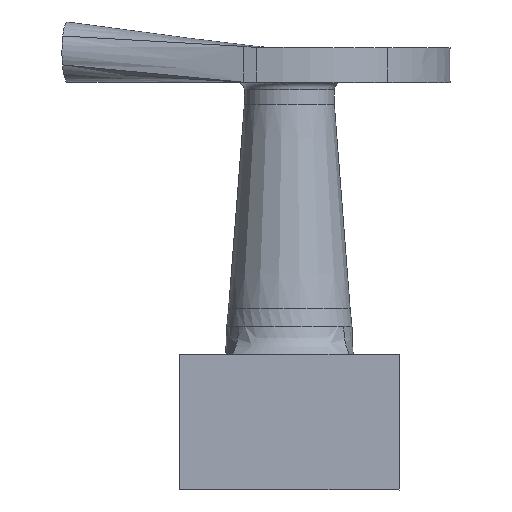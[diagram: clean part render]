
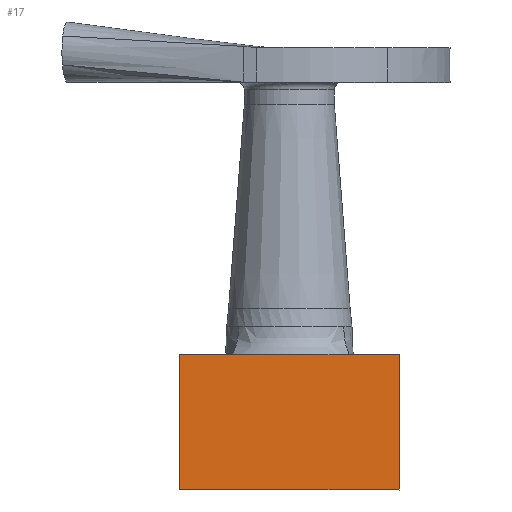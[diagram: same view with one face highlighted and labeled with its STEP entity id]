
A CAD part, top view. The second image highlights one B-rep face of the part: STEP entity #17.
In plain terms, the highlighted planar face has unit normal (0, -0.002, -1).
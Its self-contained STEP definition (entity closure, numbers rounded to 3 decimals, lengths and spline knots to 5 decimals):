
#17 = ADVANCED_FACE('',(#18),#32,.T.);
#18 = FACE_BOUND('',#19,.T.);
#19 = EDGE_LOOP('',(#20,#55,#83,#111));
#20 = ORIENTED_EDGE('',*,*,#21,.T.);
#21 = EDGE_CURVE('',#22,#24,#26,.T.);
#22 = VERTEX_POINT('',#23);
#23 = CARTESIAN_POINT('',(0.19296,-0.23954,0.67608));
#24 = VERTEX_POINT('',#25);
#25 = CARTESIAN_POINT('',(-0.19296,-0.23954,0.67608)
  );
#26 = SURFACE_CURVE('',#27,(#31,#43),.PCURVE_S1.);
#27 = LINE('',#28,#29);
#28 = CARTESIAN_POINT('',(0.19296,-0.23954,0.67608));
#29 = VECTOR('',#30,1.);
#30 = DIRECTION('',(-1.,0.,0.));
#31 = PCURVE('',#32,#37);
#32 = PLANE('',#33);
#33 = AXIS2_PLACEMENT_3D('',#34,#35,#36);
#34 = CARTESIAN_POINT('',(0.,-0.12058,
    0.67582));
#35 = DIRECTION('',(0.,-0.002,
    -1.));
#36 = DIRECTION('',(0.,-1.,0.002));
#37 = DEFINITIONAL_REPRESENTATION('',(#38),#42);
#38 = LINE('',#39,#40);
#39 = CARTESIAN_POINT('',(0.119,-0.193));
#40 = VECTOR('',#41,1.);
#41 = DIRECTION('',(0.,1.));
#42 = ( GEOMETRIC_REPRESENTATION_CONTEXT(2) 
PARAMETRIC_REPRESENTATION_CONTEXT() REPRESENTATION_CONTEXT('2D SPACE',''
  ) );
#43 = PCURVE('',#44,#49);
#44 = PLANE('',#45);
#45 = AXIS2_PLACEMENT_3D('',#46,#47,#48);
#46 = CARTESIAN_POINT('',(0.,-0.19904,
    -0.0145));
#47 = DIRECTION('',(0.,-0.998,
    -0.059));
#48 = DIRECTION('',(0.,-0.059,
    0.998));
#49 = DEFINITIONAL_REPRESENTATION('',(#50),#54);
#50 = LINE('',#51,#52);
#51 = CARTESIAN_POINT('',(0.692,-0.193));
#52 = VECTOR('',#53,1.);
#53 = DIRECTION('',(0.,1.));
#54 = ( GEOMETRIC_REPRESENTATION_CONTEXT(2) 
PARAMETRIC_REPRESENTATION_CONTEXT() REPRESENTATION_CONTEXT('2D SPACE',''
  ) );
#55 = ORIENTED_EDGE('',*,*,#56,.T.);
#56 = EDGE_CURVE('',#24,#57,#59,.T.);
#57 = VERTEX_POINT('',#58);
#58 = CARTESIAN_POINT('',(-0.19296,-0.00162,
    0.67556));
#59 = SURFACE_CURVE('',#60,(#64,#71),.PCURVE_S1.);
#60 = LINE('',#61,#62);
#61 = CARTESIAN_POINT('',(-0.19296,-0.23954,0.67608)
  );
#62 = VECTOR('',#63,1.);
#63 = DIRECTION('',(0.,1.,
    -0.002));
#64 = PCURVE('',#32,#65);
#65 = DEFINITIONAL_REPRESENTATION('',(#66),#70);
#66 = LINE('',#67,#68);
#67 = CARTESIAN_POINT('',(0.119,0.193));
#68 = VECTOR('',#69,1.);
#69 = DIRECTION('',(-1.,0.));
#70 = ( GEOMETRIC_REPRESENTATION_CONTEXT(2) 
PARAMETRIC_REPRESENTATION_CONTEXT() REPRESENTATION_CONTEXT('2D SPACE',''
  ) );
#71 = PCURVE('',#72,#77);
#72 = PLANE('',#73);
#73 = AXIS2_PLACEMENT_3D('',#74,#75,#76);
#74 = CARTESIAN_POINT('',(-0.15129,0.04822,
    -0.00921));
#75 = DIRECTION('',(-0.998,0.,
    -0.061));
#76 = DIRECTION('',(-0.061,0.,
    0.998));
#77 = DEFINITIONAL_REPRESENTATION('',(#78),#82);
#78 = LINE('',#79,#80);
#79 = CARTESIAN_POINT('',(0.687,-0.288));
#80 = VECTOR('',#81,1.);
#81 = DIRECTION('',(-0.002,1.));
#82 = ( GEOMETRIC_REPRESENTATION_CONTEXT(2) 
PARAMETRIC_REPRESENTATION_CONTEXT() REPRESENTATION_CONTEXT('2D SPACE',''
  ) );
#83 = ORIENTED_EDGE('',*,*,#84,.T.);
#84 = EDGE_CURVE('',#57,#85,#87,.T.);
#85 = VERTEX_POINT('',#86);
#86 = CARTESIAN_POINT('',(0.19296,-0.00162,
    0.67556));
#87 = SURFACE_CURVE('',#88,(#92,#99),.PCURVE_S1.);
#88 = LINE('',#89,#90);
#89 = CARTESIAN_POINT('',(-0.19296,-0.00162,
    0.67556));
#90 = VECTOR('',#91,1.);
#91 = DIRECTION('',(1.,0.,0.));
#92 = PCURVE('',#32,#93);
#93 = DEFINITIONAL_REPRESENTATION('',(#94),#98);
#94 = LINE('',#95,#96);
#95 = CARTESIAN_POINT('',(-0.119,0.193));
#96 = VECTOR('',#97,1.);
#97 = DIRECTION('',(0.,-1.));
#98 = ( GEOMETRIC_REPRESENTATION_CONTEXT(2) 
PARAMETRIC_REPRESENTATION_CONTEXT() REPRESENTATION_CONTEXT('2D SPACE',''
  ) );
#99 = PCURVE('',#100,#105);
#100 = PLANE('',#101);
#101 = AXIS2_PLACEMENT_3D('',#102,#103,#104);
#102 = CARTESIAN_POINT('',(0.,-0.04387,
    0.00581));
#103 = DIRECTION('',(0.,0.998,
    -0.063));
#104 = DIRECTION('',(0.,-0.063,
    -0.998));
#105 = DEFINITIONAL_REPRESENTATION('',(#106),#110);
#106 = LINE('',#107,#108);
#107 = CARTESIAN_POINT('',(-0.671,0.193));
#108 = VECTOR('',#109,1.);
#109 = DIRECTION('',(0.,-1.));
#110 = ( GEOMETRIC_REPRESENTATION_CONTEXT(2) 
PARAMETRIC_REPRESENTATION_CONTEXT() REPRESENTATION_CONTEXT('2D SPACE',''
  ) );
#111 = ORIENTED_EDGE('',*,*,#112,.T.);
#112 = EDGE_CURVE('',#85,#22,#113,.T.);
#113 = SURFACE_CURVE('',#114,(#118,#125),.PCURVE_S1.);
#114 = LINE('',#115,#116);
#115 = CARTESIAN_POINT('',(0.19296,-0.00162,
    0.67556));
#116 = VECTOR('',#117,1.);
#117 = DIRECTION('',(0.,-1.,
    0.002));
#118 = PCURVE('',#32,#119);
#119 = DEFINITIONAL_REPRESENTATION('',(#120),#124);
#120 = LINE('',#121,#122);
#121 = CARTESIAN_POINT('',(-0.119,-0.193));
#122 = VECTOR('',#123,1.);
#123 = DIRECTION('',(1.,0.));
#124 = ( GEOMETRIC_REPRESENTATION_CONTEXT(2) 
PARAMETRIC_REPRESENTATION_CONTEXT() REPRESENTATION_CONTEXT('2D SPACE',''
  ) );
#125 = PCURVE('',#126,#131);
#126 = PLANE('',#127);
#127 = AXIS2_PLACEMENT_3D('',#128,#129,#130);
#128 = CARTESIAN_POINT('',(0.15129,0.04822,
    -0.00921));
#129 = DIRECTION('',(0.998,0.,
    -0.061));
#130 = DIRECTION('',(-0.061,0.,
    -0.998));
#131 = DEFINITIONAL_REPRESENTATION('',(#132),#136);
#132 = LINE('',#133,#134);
#133 = CARTESIAN_POINT('',(-0.686,-0.05));
#134 = VECTOR('',#135,1.);
#135 = DIRECTION('',(-0.002,-1.));
#136 = ( GEOMETRIC_REPRESENTATION_CONTEXT(2) 
PARAMETRIC_REPRESENTATION_CONTEXT() REPRESENTATION_CONTEXT('2D SPACE',''
  ) );
